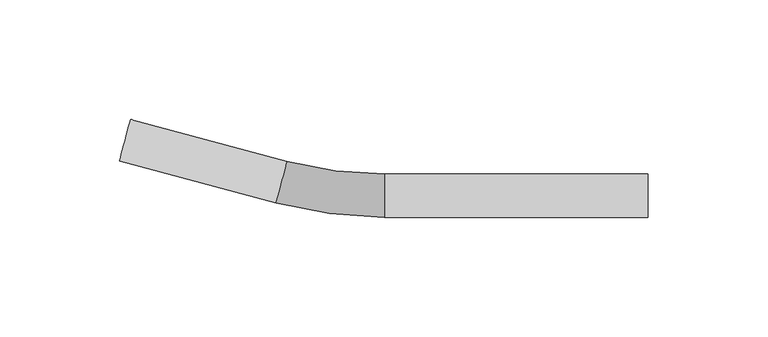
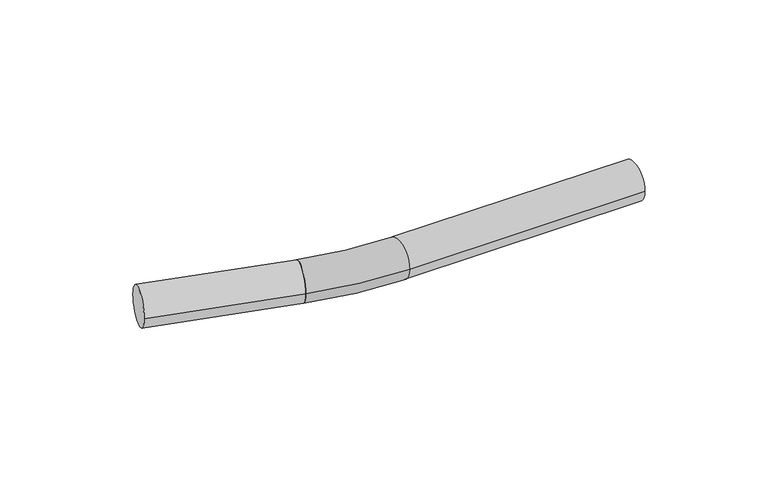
"""IFC4 building model written with IfcOpenShell, lengths in millimetres: pipe fitting geometry, VALTEC_VTi.955.I_Отвод безраструбный_нержавеющая : VTi.955.I."""

from ifc_helpers import new_model, si_unit, point, frame, origin, origin_2d, place, context, project, spatial, circle_curve, ellipse_curve, trimmed, segment, composite_curve, outline, extrude, source, transform, mapped, element, save
from ifc_brep_helpers import plane_surface, revolved_surface, advanced_brep


def pipe_fitting_8282c84d(model_context):
    return source(origin(), model_context, "Body", "SolidModel", [
        advanced_brep(
        [(21.6, -9.0, 0.0), (21.6, 9.0, 0.0), (-23.6933329, -3.0370196, 0.0), (-19.0345901, 14.3496453, 0.0)],
        [
            (0, 1, circle_curve(frame((21.6, 0.0, 0.0), z_axis=(1.0, 0.0, 0.0), x_axis=(0.0, 1.0, 0.0)), 9.0)),
            (1, 0, circle_curve(frame((21.6, 0.0, 0.0), z_axis=(1.0, 0.0, 0.0), x_axis=(0.0, 1.0, 0.0)), 9.0)),
            (2, 3, circle_curve(frame((-21.3639615, 5.6563128, 0.0), z_axis=(-0.9659258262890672, 0.2588190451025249, 0.0), x_axis=(0.2588190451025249, 0.9659258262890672, 0.0)), 9.0)),
            (3, 2, circle_curve(frame((-21.3639615, 5.6563128, 0.0), z_axis=(-0.9659258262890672, 0.2588190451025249, 0.0), x_axis=(0.2588190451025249, 0.9659258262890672, 0.0)), 9.0)),
            (2, 0, circle_curve(frame((21.6, 166.0, 0.0), z_axis=(0.0, 0.0, 1.0), x_axis=(0.0, -1.0, 0.0)), 175.0)),
            (1, 3, circle_curve(frame((21.6, 166.0, 0.0), z_axis=(0.0, 0.0, -1.0), x_axis=(0.0, -1.0, 0.0)), 157.0)),
        ],
        [
            plane_surface(frame((21.6, 0.0, 0.0), z_axis=(1.0, 0.0, 0.0), x_axis=(0.0, 0.0, 1.0))),
            plane_surface(frame((-21.3639615, 5.6563128, 0.0), z_axis=(-0.9659258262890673, 0.2588190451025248, 0.0), x_axis=(0.0, 0.0, 1.0))),
            revolved_surface(trimmed(ellipse_curve(frame((21.6, 0.0, 0.0), z_axis=(-1.0, 0.0, 0.0), x_axis=(0.0, 1.0, 0.0)), 9.0, 9.0), [point((21.6, -9.0, 0.0))], [point((21.6, 9.0, 0.0))], True, "CARTESIAN"), (21.6, 166.0, 0.0), (0.0, 0.0, 1.0)),
            revolved_surface(trimmed(ellipse_curve(frame((21.6, 0.0, 0.0), z_axis=(-1.0, 0.0, 0.0), x_axis=(0.0, 1.0, 0.0)), 9.0, 9.0), [point((21.6, 9.0, 0.0))], [point((21.6, -9.0, 0.0))], True, "CARTESIAN"), (21.6, 166.0, 0.0), (0.0, 0.0, 1.0)),
        ],
        [
            (0, [[1, 2]]),
            (1, [[3, 4]]),
            (2, [[-3, 5, -2, 6]]),
            (3, [[-4, -6, -1, -5]]),
        ],
    ),
        extrude(outline(composite_curve([segment(trimmed(circle_curve(origin_2d(), 9.0), [point((0.0, 9.0))], [point((0.0, -9.0))], False, "CARTESIAN"), True, "CONTINUOUS"), segment(trimmed(circle_curve(origin_2d(), 9.0), [point((0.0, -9.0))], [point((0.0, 9.0))], False, "CARTESIAN"), True, "CONTINUOUS")], self_intersect=False)), frame((-21.3469608, 5.7199009, 0.0), z_axis=(-0.9659258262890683, 0.2588190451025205, 0.0), x_axis=(0.0, 0.0, 1.0)), (0.0, 0.0, 1.0), 67.9),
        extrude(outline(composite_curve([segment(trimmed(circle_curve(origin_2d(), 9.0), [point((9.0, 0.0))], [point((-9.0, 0.0))], False, "CARTESIAN"), True, "CONTINUOUS"), segment(trimmed(circle_curve(origin_2d(), 9.0), [point((-9.0, 0.0))], [point((9.0, 0.0))], False, "CARTESIAN"), True, "CONTINUOUS")], self_intersect=False)), frame((21.6, 0.0, 0.0), z_axis=(1.0, 0.0, 0.0), x_axis=(0.0, 1.0, 0.0)), (0.0, 0.0, 1.0), 110.4),
    ])


if __name__ == "__main__":
    model = new_model("IFC4")
    model_context = context("Model", 3, world=origin())
    ifc_project = project(units=[si_unit("LENGTHUNIT", "METRE", prefix="MILLI")], contexts=[model_context])
    site = spatial("IfcSite", under=ifc_project)
    building = spatial("IfcBuilding", under=site)
    placement = place(None, origin())
    pipe_fitting_shape = pipe_fitting_8282c84d(model_context)
    element("IfcPipeFitting", 1, ObjectType="VALTEC_VTi.955.I_Отвод безраструбный_нержавеющая : VTi.955.I", at=placement, inside=building, context=model_context, shape_type="MappedRepresentation", body=[
        mapped(pipe_fitting_shape, transform((0.0, 0.0, 0.0), x_axis=(1.0, 0.0, 0.0), y_axis=(0.0, 1.0, 0.0), z_axis=(0.0, 0.0, 1.0))),
    ])
    save(model, "model.ifc")
